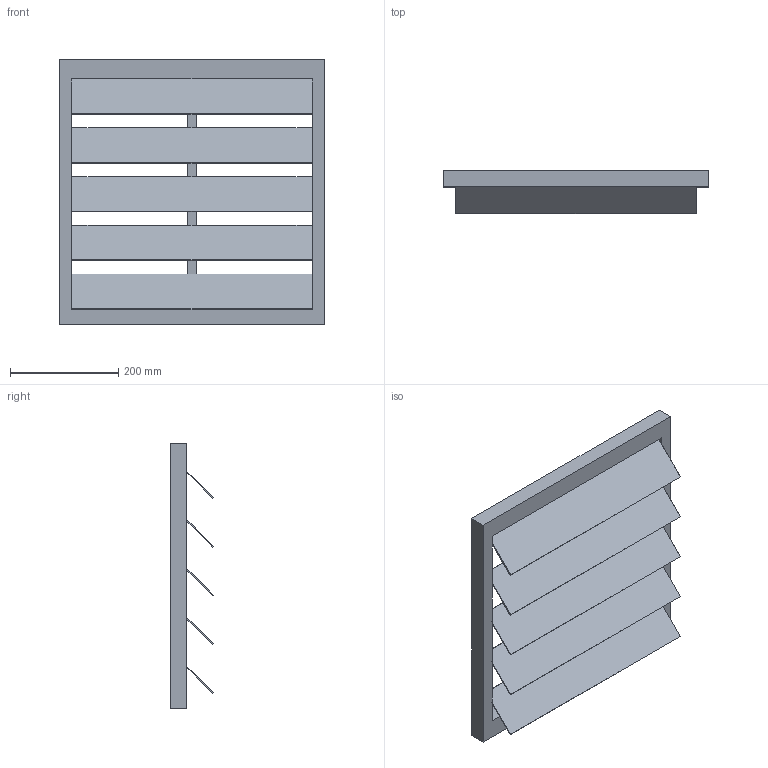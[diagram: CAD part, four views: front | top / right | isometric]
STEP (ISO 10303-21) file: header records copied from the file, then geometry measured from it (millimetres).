
FILE_DESCRIPTION(/* description */ (''),/* implementation_level */ '2;1');
FILE_NAME(/* name */ 'Z:\Output\VK_450-00763-001.stp',/* time_stamp */ '2017-09-29T10:20:26+02:00',/* author */ ('pareshmistry'),/* organization */ (''),/* preprocessor_version */ 'ST-DEVELOPER v16.5',/* originating_system */ 'Autodesk Inventor 2017',/* authorisation */ '');
FILE_SCHEMA (('AUTOMOTIVE_DESIGN { 1 0 10303 214 3 1 1 }'));
Length unit declared in the file: millimetre
Products named in the file (1): VK-1
Bounding box: 490 x 78.64 x 490 mm (x, y, z)
Volume: 2161051.7 mm3; surface area: 656165.1 mm2
Topology: 1 solids, 1 shells, 76 faces, 249 edges, 150 vertices
Faces by surface type: plane 68, cylinder 8
Full cylindrical faces by diameter (mm): 8 x4
Entity records: 2701 total; most frequent: ORIENTED_EDGE 494, CARTESIAN_POINT 468, DIRECTION 425, EDGE_CURVE 243, LINE 215, VECTOR 215, VERTEX_POINT 148, AXIS2_PLACEMENT_3D 105
